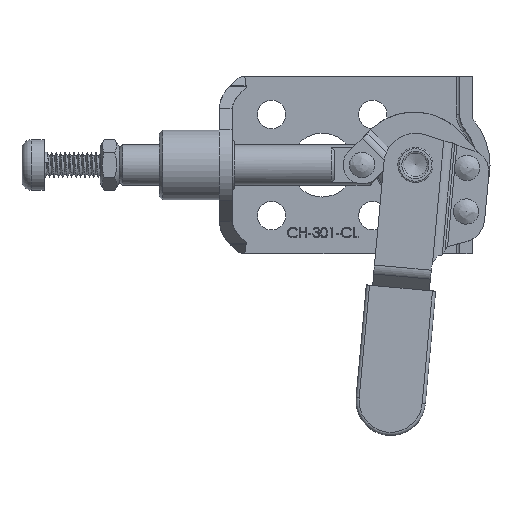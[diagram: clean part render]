
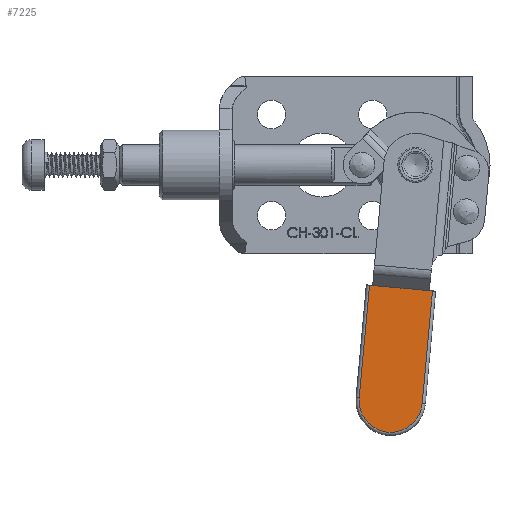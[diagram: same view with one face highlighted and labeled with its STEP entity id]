
A CAD part, top view. The second image highlights one B-rep face of the part: STEP entity #7225.
In plain terms, the highlighted planar face has unit normal (0, 0, 1).
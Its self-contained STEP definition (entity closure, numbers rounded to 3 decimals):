
#385=PLANE('',#8034);
#860=FACE_OUTER_BOUND('',#1293,.T.);
#1293=EDGE_LOOP('',(#6256,#6257,#6258,#6259));
#1633=CIRCLE('',#8019,5.);
#2292=LINE('',#21608,#2830);
#2304=LINE('',#21632,#2842);
#2305=LINE('',#21633,#2843);
#2830=VECTOR('',#9529,1000.);
#2842=VECTOR('',#9553,1000.);
#2843=VECTOR('',#9554,1000.);
#3489=VERTEX_POINT('',#21583);
#3490=VERTEX_POINT('',#21585);
#3499=VERTEX_POINT('',#21605);
#3500=VERTEX_POINT('',#21607);
#4445=EDGE_CURVE('',#3490,#3489,#1633,.T.);
#4455=EDGE_CURVE('',#3500,#3499,#2292,.T.);
#4469=EDGE_CURVE('',#3499,#3490,#2304,.T.);
#4470=EDGE_CURVE('',#3489,#3500,#2305,.T.);
#6256=ORIENTED_EDGE('',*,*,#4455,.T.);
#6257=ORIENTED_EDGE('',*,*,#4469,.T.);
#6258=ORIENTED_EDGE('',*,*,#4445,.T.);
#6259=ORIENTED_EDGE('',*,*,#4470,.T.);
#7225=ADVANCED_FACE('',(#860),#385,.T.);
#8019=AXIS2_PLACEMENT_3D('',#21586,#9507,#9508);
#8034=AXIS2_PLACEMENT_3D('',#21631,#9551,#9552);
#9507=DIRECTION('center_axis',(0.,0.,1.));
#9508=DIRECTION('ref_axis',(1.,0.,0.));
#9529=DIRECTION('',(0.,-1.,0.));
#9551=DIRECTION('center_axis',(0.,0.,1.));
#9552=DIRECTION('ref_axis',(1.,0.,0.));
#9553=DIRECTION('',(1.,0.,0.));
#9554=DIRECTION('',(-1.,0.,0.));
#21583=CARTESIAN_POINT('',(0.,5.,5.));
#21585=CARTESIAN_POINT('',(0.,-5.,5.));
#21586=CARTESIAN_POINT('Origin',(0.,0.,5.));
#21605=CARTESIAN_POINT('',(-17.9,-5.,5.));
#21607=CARTESIAN_POINT('',(-17.9,5.,5.));
#21608=CARTESIAN_POINT('',(-17.9,-5.5,5.));
#21631=CARTESIAN_POINT('Origin',(0.,0.,5.));
#21632=CARTESIAN_POINT('',(0.,-5.,5.));
#21633=CARTESIAN_POINT('',(-17.9,5.,5.));
